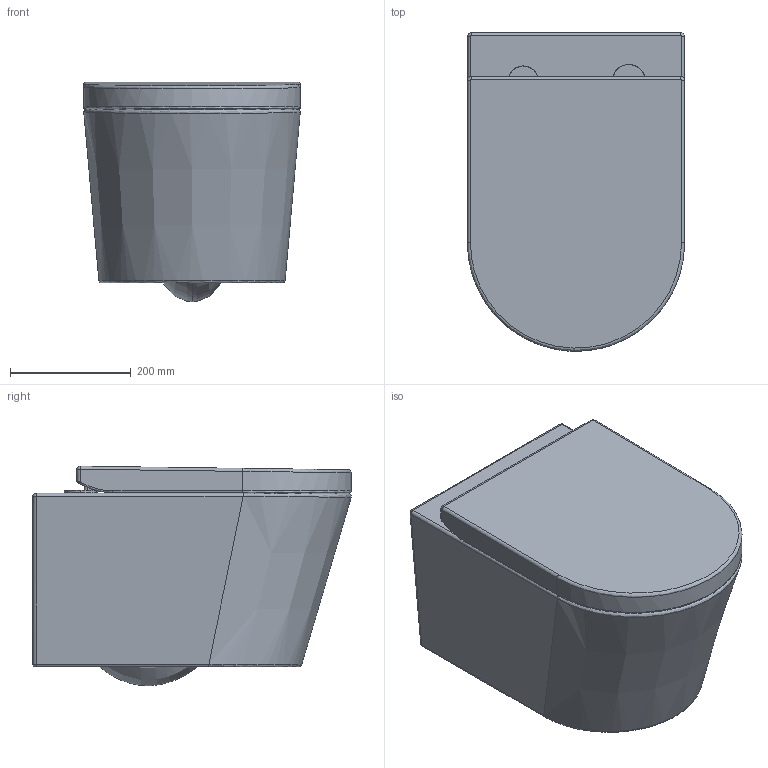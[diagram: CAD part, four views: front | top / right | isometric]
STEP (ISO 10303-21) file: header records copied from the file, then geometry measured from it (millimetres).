
FILE_DESCRIPTION(/* description */ (''),/* implementation_level */ '2;1');
FILE_NAME(/* name */ 'Vaso sospeso Flat',/* time_stamp */ '2025-01-23T15:40:35+01:00',/* author */ (''),/* organization */ (''),/* preprocessor_version */ 'ST-DEVELOPER v19.2',/* originating_system */ 'Rhino 8.15',/* authorisation */ '');
FILE_SCHEMA (('CONFIG_CONTROL_DESIGN'));
Length unit declared in the file: millimetre
Products named in the file (8): Document; 0513_ASM; 0513; 0513-GAI_ASM; 0513-GAI-001; 0513-GAI-002; 0513-GAI-003; PRT0002
Bounding box: 360 x 528.15 x 364.15 mm (x, y, z)
Volume: 9916671 mm3; surface area: 2368851.4 mm2
Topology: 5 solids, 5 shells, 389 faces, 947 edges, 575 vertices
Faces by surface type: bspline 166, cylinder 135, plane 88
Entity records: 30667 total; most frequent: CARTESIAN_POINT 22077, ORIENTED_EDGE 1894, DIRECTION 1031, EDGE_CURVE 947, AXIS2_PLACEMENT_3D 627, VERTEX_POINT 575, B_SPLINE_CURVE_WITH_KNOTS 557, EDGE_LOOP 412
